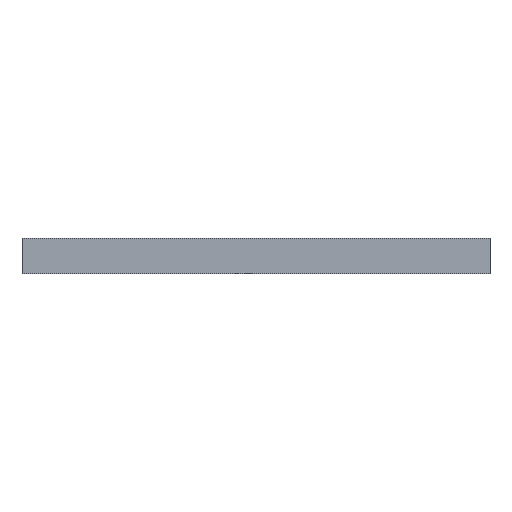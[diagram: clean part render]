
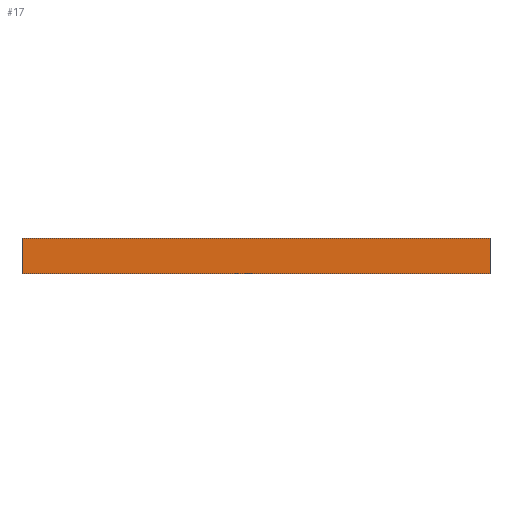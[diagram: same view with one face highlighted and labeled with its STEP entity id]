
A CAD part, left-side view. The second image highlights one B-rep face of the part: STEP entity #17.
In plain terms, the highlighted planar face has unit normal (-1, 0, 0).
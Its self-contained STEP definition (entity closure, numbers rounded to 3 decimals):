
#17 = ADVANCED_FACE('',(#18),#32,.F.);
#18 = FACE_BOUND('',#19,.F.);
#19 = EDGE_LOOP('',(#20,#55,#83,#111));
#20 = ORIENTED_EDGE('',*,*,#21,.F.);
#21 = EDGE_CURVE('',#22,#24,#26,.T.);
#22 = VERTEX_POINT('',#23);
#23 = CARTESIAN_POINT('',(-20.,-20.,0.));
#24 = VERTEX_POINT('',#25);
#25 = CARTESIAN_POINT('',(-20.,-20.,3.));
#26 = SURFACE_CURVE('',#27,(#31,#43),.PCURVE_S1.);
#27 = LINE('',#28,#29);
#28 = CARTESIAN_POINT('',(-20.,-20.,0.));
#29 = VECTOR('',#30,1.);
#30 = DIRECTION('',(0.,0.,1.));
#31 = PCURVE('',#32,#37);
#32 = PLANE('',#33);
#33 = AXIS2_PLACEMENT_3D('',#34,#35,#36);
#34 = CARTESIAN_POINT('',(-20.,-20.,0.));
#35 = DIRECTION('',(1.,0.,0.));
#36 = DIRECTION('',(0.,0.,1.));
#37 = DEFINITIONAL_REPRESENTATION('',(#38),#42);
#38 = LINE('',#39,#40);
#39 = CARTESIAN_POINT('',(0.,0.));
#40 = VECTOR('',#41,1.);
#41 = DIRECTION('',(1.,0.));
#42 = ( GEOMETRIC_REPRESENTATION_CONTEXT(2) 
PARAMETRIC_REPRESENTATION_CONTEXT() REPRESENTATION_CONTEXT('2D SPACE',''
  ) );
#43 = PCURVE('',#44,#49);
#44 = PLANE('',#45);
#45 = AXIS2_PLACEMENT_3D('',#46,#47,#48);
#46 = CARTESIAN_POINT('',(-20.,-20.,0.));
#47 = DIRECTION('',(0.,1.,0.));
#48 = DIRECTION('',(0.,0.,1.));
#49 = DEFINITIONAL_REPRESENTATION('',(#50),#54);
#50 = LINE('',#51,#52);
#51 = CARTESIAN_POINT('',(0.,0.));
#52 = VECTOR('',#53,1.);
#53 = DIRECTION('',(1.,0.));
#54 = ( GEOMETRIC_REPRESENTATION_CONTEXT(2) 
PARAMETRIC_REPRESENTATION_CONTEXT() REPRESENTATION_CONTEXT('2D SPACE',''
  ) );
#55 = ORIENTED_EDGE('',*,*,#56,.T.);
#56 = EDGE_CURVE('',#22,#57,#59,.T.);
#57 = VERTEX_POINT('',#58);
#58 = CARTESIAN_POINT('',(-20.,20.,0.));
#59 = SURFACE_CURVE('',#60,(#64,#71),.PCURVE_S1.);
#60 = LINE('',#61,#62);
#61 = CARTESIAN_POINT('',(-20.,-20.,0.));
#62 = VECTOR('',#63,1.);
#63 = DIRECTION('',(0.,1.,0.));
#64 = PCURVE('',#32,#65);
#65 = DEFINITIONAL_REPRESENTATION('',(#66),#70);
#66 = LINE('',#67,#68);
#67 = CARTESIAN_POINT('',(0.,0.));
#68 = VECTOR('',#69,1.);
#69 = DIRECTION('',(0.,-1.));
#70 = ( GEOMETRIC_REPRESENTATION_CONTEXT(2) 
PARAMETRIC_REPRESENTATION_CONTEXT() REPRESENTATION_CONTEXT('2D SPACE',''
  ) );
#71 = PCURVE('',#72,#77);
#72 = PLANE('',#73);
#73 = AXIS2_PLACEMENT_3D('',#74,#75,#76);
#74 = CARTESIAN_POINT('',(-20.,-20.,0.));
#75 = DIRECTION('',(0.,0.,1.));
#76 = DIRECTION('',(1.,0.,0.));
#77 = DEFINITIONAL_REPRESENTATION('',(#78),#82);
#78 = LINE('',#79,#80);
#79 = CARTESIAN_POINT('',(0.,0.));
#80 = VECTOR('',#81,1.);
#81 = DIRECTION('',(0.,1.));
#82 = ( GEOMETRIC_REPRESENTATION_CONTEXT(2) 
PARAMETRIC_REPRESENTATION_CONTEXT() REPRESENTATION_CONTEXT('2D SPACE',''
  ) );
#83 = ORIENTED_EDGE('',*,*,#84,.T.);
#84 = EDGE_CURVE('',#57,#85,#87,.T.);
#85 = VERTEX_POINT('',#86);
#86 = CARTESIAN_POINT('',(-20.,20.,3.));
#87 = SURFACE_CURVE('',#88,(#92,#99),.PCURVE_S1.);
#88 = LINE('',#89,#90);
#89 = CARTESIAN_POINT('',(-20.,20.,0.));
#90 = VECTOR('',#91,1.);
#91 = DIRECTION('',(0.,0.,1.));
#92 = PCURVE('',#32,#93);
#93 = DEFINITIONAL_REPRESENTATION('',(#94),#98);
#94 = LINE('',#95,#96);
#95 = CARTESIAN_POINT('',(0.,-40.));
#96 = VECTOR('',#97,1.);
#97 = DIRECTION('',(1.,0.));
#98 = ( GEOMETRIC_REPRESENTATION_CONTEXT(2) 
PARAMETRIC_REPRESENTATION_CONTEXT() REPRESENTATION_CONTEXT('2D SPACE',''
  ) );
#99 = PCURVE('',#100,#105);
#100 = PLANE('',#101);
#101 = AXIS2_PLACEMENT_3D('',#102,#103,#104);
#102 = CARTESIAN_POINT('',(-20.,20.,0.));
#103 = DIRECTION('',(0.,1.,0.));
#104 = DIRECTION('',(0.,0.,1.));
#105 = DEFINITIONAL_REPRESENTATION('',(#106),#110);
#106 = LINE('',#107,#108);
#107 = CARTESIAN_POINT('',(0.,0.));
#108 = VECTOR('',#109,1.);
#109 = DIRECTION('',(1.,0.));
#110 = ( GEOMETRIC_REPRESENTATION_CONTEXT(2) 
PARAMETRIC_REPRESENTATION_CONTEXT() REPRESENTATION_CONTEXT('2D SPACE',''
  ) );
#111 = ORIENTED_EDGE('',*,*,#112,.F.);
#112 = EDGE_CURVE('',#24,#85,#113,.T.);
#113 = SURFACE_CURVE('',#114,(#118,#125),.PCURVE_S1.);
#114 = LINE('',#115,#116);
#115 = CARTESIAN_POINT('',(-20.,-20.,3.));
#116 = VECTOR('',#117,1.);
#117 = DIRECTION('',(0.,1.,0.));
#118 = PCURVE('',#32,#119);
#119 = DEFINITIONAL_REPRESENTATION('',(#120),#124);
#120 = LINE('',#121,#122);
#121 = CARTESIAN_POINT('',(3.,0.));
#122 = VECTOR('',#123,1.);
#123 = DIRECTION('',(0.,-1.));
#124 = ( GEOMETRIC_REPRESENTATION_CONTEXT(2) 
PARAMETRIC_REPRESENTATION_CONTEXT() REPRESENTATION_CONTEXT('2D SPACE',''
  ) );
#125 = PCURVE('',#126,#131);
#126 = PLANE('',#127);
#127 = AXIS2_PLACEMENT_3D('',#128,#129,#130);
#128 = CARTESIAN_POINT('',(-20.,-20.,3.));
#129 = DIRECTION('',(0.,0.,1.));
#130 = DIRECTION('',(1.,0.,0.));
#131 = DEFINITIONAL_REPRESENTATION('',(#132),#136);
#132 = LINE('',#133,#134);
#133 = CARTESIAN_POINT('',(0.,0.));
#134 = VECTOR('',#135,1.);
#135 = DIRECTION('',(0.,1.));
#136 = ( GEOMETRIC_REPRESENTATION_CONTEXT(2) 
PARAMETRIC_REPRESENTATION_CONTEXT() REPRESENTATION_CONTEXT('2D SPACE',''
  ) );
